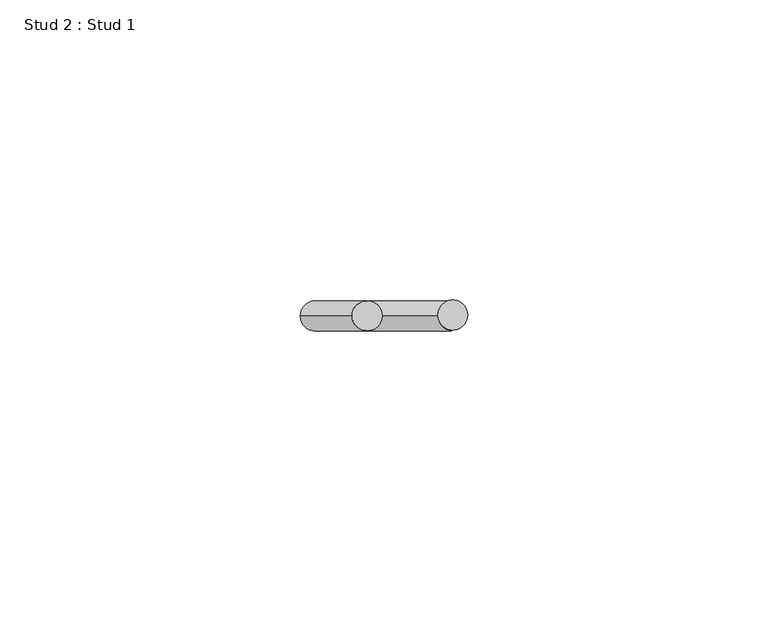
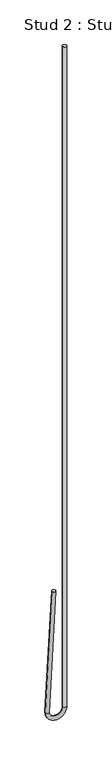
"""IFC4 building model written with IfcOpenShell, lengths in millimetres: proxy geometry, Stud 2 : Stud 1."""

from ifc_helpers import new_model, si_unit, point, frame, origin, place, context, project, spatial, circle_curve, ellipse_curve, trimmed, source, transform, mapped, element, save
from ifc_brep_helpers import plane_surface, cylinder_surface, revolved_surface, advanced_brep


def stud_2_stud_1_6b914506(model_context):
    return source(origin(), model_context, "Body", "AdvancedBrep", [
        advanced_brep(
        [(-10978.2326538, 3381.5191481, 3640.800192), (-10973.2395061, 3381.5191481, 3640.5385122), (-10986.8733201, 3381.5191481, 3475.9264558), (-10981.8801725, 3381.5191481, 3475.664776), (-10963.9714562, 3381.5191481, 3475.7956159), (-10958.9714562, 3381.5191481, 3475.7956159), (-10958.9714562, 3381.5191481, 4390.1956159), (-10963.9714562, 3381.5191481, 4390.1956159)],
        [
            (0, 1, circle_curve(frame((-10975.7360799, 3381.5191481, 3640.6693521), z_axis=(0.05233595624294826, 0.0, 0.9986295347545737), x_axis=(0.9986295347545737, 0.0, -0.05233595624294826)), 2.5)),
            (1, 0, circle_curve(frame((-10975.7360799, 3381.5191481, 3640.6693521), z_axis=(0.05233595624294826, 0.0, 0.9986295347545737), x_axis=(0.9986295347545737, 0.0, -0.05233595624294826)), 2.5)),
            (0, 2),
            (2, 3, circle_curve(frame((-10984.3767463, 3381.5191481, 3475.7956159), z_axis=(0.05233595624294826, 0.0, 0.9986295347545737), x_axis=(0.9986295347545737, 0.0, -0.05233595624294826)), 2.5)),
            (3, 1),
            (3, 2, circle_curve(frame((-10984.3767463, 3381.5191481, 3475.7956159), z_axis=(0.05233595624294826, 0.0, 0.9986295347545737), x_axis=(0.9986295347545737, 0.0, -0.05233595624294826)), 2.5)),
            (4, 3, circle_curve(frame((-10972.9241013, 3381.5191481, 3475.7956159), z_axis=(0.0, 1.0, 0.0), x_axis=(-1.0, 0.0, 0.0)), 8.952645)),
            (2, 5, circle_curve(frame((-10972.9241013, 3381.5191481, 3475.7956159), z_axis=(0.0, -1.0, 0.0), x_axis=(-1.0, 0.0, 0.0)), 13.952645)),
            (5, 4, circle_curve(frame((-10961.4714562, 3381.5191481, 3475.7956159), z_axis=(0.0, 0.0, -1.0), x_axis=(-1.0, 0.0, 0.0)), 2.5)),
            (4, 5, circle_curve(frame((-10961.4714562, 3381.5191481, 3475.7956159), z_axis=(0.0, 0.0, -1.0), x_axis=(-1.0, 0.0, 0.0)), 2.5)),
            (6, 7, circle_curve(frame((-10961.4714562, 3381.5191481, 4390.1956159), z_axis=(0.0, 0.0, 1.0), x_axis=(-1.0, 0.0, 0.0)), 2.5)),
            (7, 6, circle_curve(frame((-10961.4714562, 3381.5191481, 4390.1956159), z_axis=(0.0, 0.0, 1.0), x_axis=(-1.0, 0.0, 0.0)), 2.5)),
            (5, 6),
            (7, 4),
        ],
        [
            plane_surface(frame((-10975.7360799, 3975.2441481, 3640.6693521), z_axis=(0.05233595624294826, 0.0, 0.9986295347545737), x_axis=(0.0, -1.0, 0.0))),
            cylinder_surface(frame((-10975.7360799, 3381.5191481, 3640.6693521), z_axis=(0.05233595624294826, 0.0, 0.9986295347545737), x_axis=(0.9986295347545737, 0.0, -0.05233595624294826)), 2.5),
            revolved_surface(trimmed(ellipse_curve(frame((-10984.3767463, 3381.5191481, 3475.7956159), z_axis=(0.0, 0.0, 1.0), x_axis=(1.0, 0.0, 0.0)), 2.5, 2.5), [point((-10986.8767463, 3381.5191481, 3475.7956159))], [point((-10981.8767463, 3381.5191481, 3475.7956159))], True, "CARTESIAN"), (-10972.9241013, 3975.2441481, 3475.7956159), (0.0, -1.0, 0.0)),
            revolved_surface(trimmed(ellipse_curve(frame((-10984.3767463, 3381.5191481, 3475.7956159), z_axis=(0.0, 0.0, 1.0), x_axis=(1.0, 0.0, 0.0)), 2.5, 2.5), [point((-10981.8767463, 3381.5191481, 3475.7956159))], [point((-10986.8767463, 3381.5191481, 3475.7956159))], True, "CARTESIAN"), (-10972.9241013, 3975.2441481, 3475.7956159), (0.0, -1.0, 0.0)),
            plane_surface(frame((-10961.4714562, 3975.2441481, 4390.1956159), z_axis=(0.0, 0.0, 1.0), x_axis=(0.0, -1.0, 0.0))),
            cylinder_surface(frame((-10961.4714562, 3381.5191481, 3475.7956159), z_axis=(0.0, 0.0, -1.0), x_axis=(-1.0, 0.0, 0.0)), 2.5),
        ],
        [
            (0, [[1, 2]]),
            (1, [[-1, 3, 4, 5]]),
            (1, [[-2, -5, 6, -3]]),
            (2, [[7, -4, 8, 9]]),
            (3, [[-8, -6, -7, 10]]),
            (4, [[11, 12]]),
            (5, [[-9, 13, -12, 14]]),
            (5, [[-10, -14, -11, -13]]),
        ],
    ),
    ])


if __name__ == "__main__":
    model = new_model("IFC4")
    model_context = context("Model", 3, world=origin())
    ifc_project = project(units=[si_unit("LENGTHUNIT", "METRE", prefix="MILLI")], contexts=[model_context])
    site = spatial("IfcSite", under=ifc_project)
    building = spatial("IfcBuilding", under=site)
    placement = place(None, origin())
    stud_2_stud_1_shape = stud_2_stud_1_6b914506(model_context)
    element("IfcBuildingElementProxy", 1, Name="Stud 2 : Stud 1", ObjectType="Stud 2 : Stud 1", at=placement, inside=building, context=model_context, shape_type="MappedRepresentation", body=[
        mapped(stud_2_stud_1_shape, transform((0.0, 0.0, 0.0), x_axis=(1.0, 0.0, 0.0), y_axis=(0.0, 1.0, 0.0), z_axis=(0.0, 0.0, 1.0))),
    ])
    save(model, "model.ifc")
